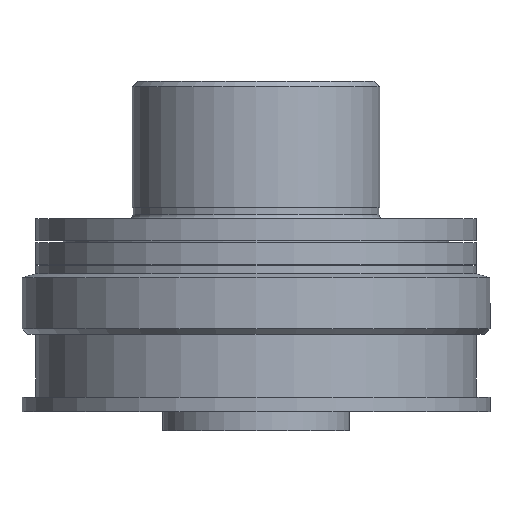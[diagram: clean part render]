
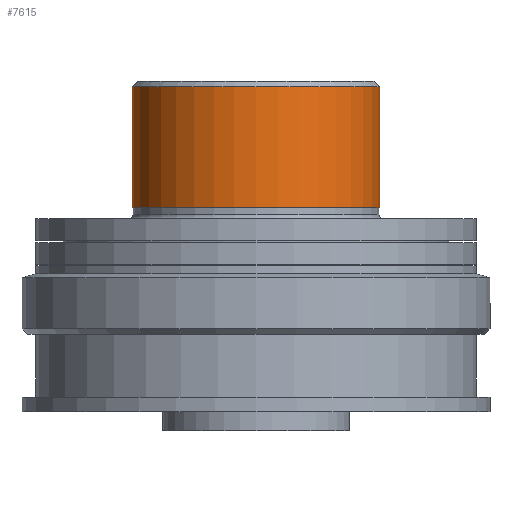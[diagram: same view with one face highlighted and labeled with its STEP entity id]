
A CAD part, front view. The second image highlights one B-rep face of the part: STEP entity #7615.
In plain terms, the highlighted cylindrical face has radius 22.5 mm (diameter 45 mm), a partial arc.
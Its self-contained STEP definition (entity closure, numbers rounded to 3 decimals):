
#272 = CARTESIAN_POINT ( 'NONE',  ( 0., 0., -83.268 ) ) ;
#273 = DIRECTION ( 'NONE',  ( 0., 0., 1. ) ) ;
#281 = DIRECTION ( 'NONE',  ( 1., 0., 0. ) ) ;
#789 = EDGE_LOOP ( 'NONE', ( #985, #1008, #8541, #8532 ) ) ;
#985 = ORIENTED_EDGE ( 'NONE', *, *, #4935, .F. ) ;
#1008 = ORIENTED_EDGE ( 'NONE', *, *, #4940, .F. ) ;
#1094 = CARTESIAN_POINT ( 'NONE',  ( 0., 0., 59. ) ) ;
#1095 = DIRECTION ( 'NONE',  ( 0., 0., -1. ) ) ;
#1096 = DIRECTION ( 'NONE',  ( 1., 0., 0. ) ) ;
#1294 = CARTESIAN_POINT ( 'NONE',  ( -22.5, 0., -83.268 ) ) ;
#1298 = DIRECTION ( 'NONE',  ( 0., 0., 1. ) ) ;
#1299 = CARTESIAN_POINT ( 'NONE',  ( 22.5, 0., -83.268 ) ) ;
#1300 = DIRECTION ( 'NONE',  ( 0., 0., 1. ) ) ;
#1313 = CARTESIAN_POINT ( 'NONE',  ( 0., 0., 37. ) ) ;
#1314 = DIRECTION ( 'NONE',  ( 0., 0., -1. ) ) ;
#1315 = DIRECTION ( 'NONE',  ( 1., 0., 0. ) ) ;
#1481 = CARTESIAN_POINT ( 'NONE',  ( -22.5, 0., 59. ) ) ;
#1489 = CARTESIAN_POINT ( 'NONE',  ( 22.5, 0., 37. ) ) ;
#1704 = FACE_OUTER_BOUND ( 'NONE', #789, .T. ) ;
#1726 = CYLINDRICAL_SURFACE ( 'NONE', #2399, 22.5 ) ;
#2242 = CIRCLE ( 'NONE', #6432, 22.5 ) ;
#2399 = AXIS2_PLACEMENT_3D ( 'NONE', #272, #273, #281 ) ;
#3631 = VERTEX_POINT ( 'NONE', #5435 ) ;
#3654 = VERTEX_POINT ( 'NONE', #5451 ) ;
#4862 = EDGE_CURVE ( 'NONE', #3654, #6863, #2242, .T. ) ;
#4935 = EDGE_CURVE ( 'NONE', #3631, #6863, #9059, .T. ) ;
#4936 = EDGE_CURVE ( 'NONE', #6901, #3654, #9065, .T. ) ;
#4940 = EDGE_CURVE ( 'NONE', #6901, #3631, #9071, .T. ) ;
#5435 = CARTESIAN_POINT ( 'NONE',  ( -22.5, 0., 37. ) ) ;
#5451 = CARTESIAN_POINT ( 'NONE',  ( 22.5, 0., 59. ) ) ;
#6294 = AXIS2_PLACEMENT_3D ( 'NONE', #1313, #1314, #1315 ) ;
#6432 = AXIS2_PLACEMENT_3D ( 'NONE', #1094, #1095, #1096 ) ;
#6863 = VERTEX_POINT ( 'NONE', #1481 ) ;
#6901 = VERTEX_POINT ( 'NONE', #1489 ) ;
#7615 = ADVANCED_FACE ( 'NONE', ( #1704 ), #1726, .T. ) ;
#8532 = ORIENTED_EDGE ( 'NONE', *, *, #4862, .T. ) ;
#8541 = ORIENTED_EDGE ( 'NONE', *, *, #4936, .T. ) ;
#9059 = LINE ( 'NONE', #1294, #9066 ) ;
#9065 = LINE ( 'NONE', #1299, #9068 ) ;
#9066 = VECTOR ( 'NONE', #1298, 1000. ) ;
#9068 = VECTOR ( 'NONE', #1300, 1000. ) ;
#9071 = CIRCLE ( 'NONE', #6294, 22.5 ) ;
